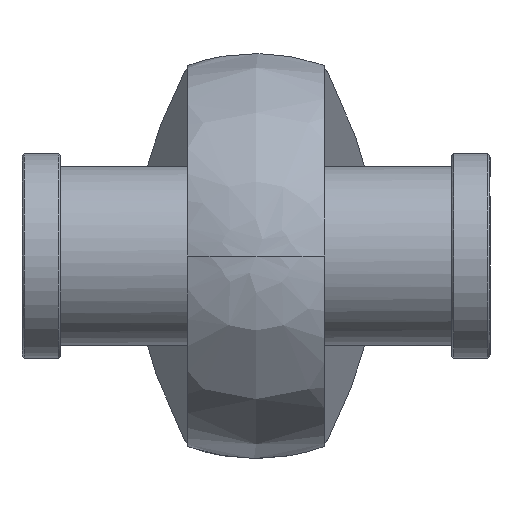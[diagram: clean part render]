
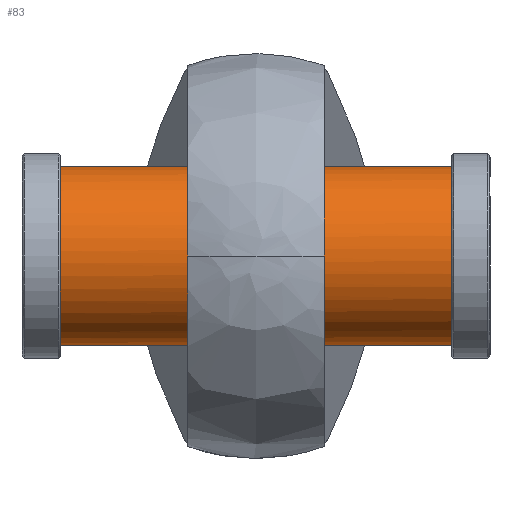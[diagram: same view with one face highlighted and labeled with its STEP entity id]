
A CAD part, left-side view. The second image highlights one B-rep face of the part: STEP entity #83.
In plain terms, the highlighted cylindrical face has radius 21 mm (diameter 42 mm), a full revolution.
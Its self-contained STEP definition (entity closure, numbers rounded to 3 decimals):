
#83=ADVANCED_FACE('',(#157),#1214,.T.);
#157=FACE_OUTER_BOUND('',#238,.T.);
#238=EDGE_LOOP('',(#506,#507,#508,#509));
#506=ORIENTED_EDGE('',*,*,#774,.T.);
#507=ORIENTED_EDGE('',*,*,#776,.T.);
#508=ORIENTED_EDGE('',*,*,#775,.T.);
#509=ORIENTED_EDGE('',*,*,#776,.F.);
#774=EDGE_CURVE('',#1128,#1128,#983,.T.);
#775=EDGE_CURVE('',#1129,#1129,#984,.T.);
#776=EDGE_CURVE('',#1128,#1129,#897,.T.);
#897=B_SPLINE_CURVE_WITH_KNOTS('',1,(#2248,#2249),.UNSPECIFIED.,.F.,.F.,
(2,2),(9.3,101.1),.UNSPECIFIED.);
#983=(
BOUNDED_CURVE()
B_SPLINE_CURVE(2,(#2230,#2231,#2232,#2233,#2234,#2235,#2236,#2237,#2238),
 .UNSPECIFIED.,.T.,.F.)
B_SPLINE_CURVE_WITH_KNOTS((3,2,2,2,3),(0.,32.987,65.973,
98.96,131.947),.UNSPECIFIED.)
CURVE()
GEOMETRIC_REPRESENTATION_ITEM()
RATIONAL_B_SPLINE_CURVE((1.,0.707,1.,0.707,1.,0.707,
1.,0.707,1.))
REPRESENTATION_ITEM('')
);
#984=(
BOUNDED_CURVE()
B_SPLINE_CURVE(2,(#2239,#2240,#2241,#2242,#2243,#2244,#2245,#2246,#2247),
 .UNSPECIFIED.,.T.,.F.)
B_SPLINE_CURVE_WITH_KNOTS((3,2,2,2,3),(0.,32.987,65.973,
98.96,131.947),.UNSPECIFIED.)
CURVE()
GEOMETRIC_REPRESENTATION_ITEM()
RATIONAL_B_SPLINE_CURVE((1.,0.707,1.,0.707,1.,0.707,
1.,0.707,1.))
REPRESENTATION_ITEM('')
);
#1128=VERTEX_POINT('',#2182);
#1129=VERTEX_POINT('',#2183);
#1214=CYLINDRICAL_SURFACE('',#1366,21.);
#1366=AXIS2_PLACEMENT_3D('',#2172,#1412,$);
#1412=DIRECTION('',(0.,-1.,0.));
#2172=CARTESIAN_POINT('',(0.,0.,0.));
#2182=CARTESIAN_POINT('',(21.,45.9,0.));
#2183=CARTESIAN_POINT('',(21.,-45.9,0.));
#2230=CARTESIAN_POINT('',(21.,45.9,0.));
#2231=CARTESIAN_POINT('',(21.,45.9,21.));
#2232=CARTESIAN_POINT('',(0.,45.9,21.));
#2233=CARTESIAN_POINT('',(-21.,45.9,21.));
#2234=CARTESIAN_POINT('',(-21.,45.9,0.));
#2235=CARTESIAN_POINT('',(-21.,45.9,-21.));
#2236=CARTESIAN_POINT('',(0.,45.9,-21.));
#2237=CARTESIAN_POINT('',(21.,45.9,-21.));
#2238=CARTESIAN_POINT('',(21.,45.9,0.));
#2239=CARTESIAN_POINT('',(21.,-45.9,0.));
#2240=CARTESIAN_POINT('',(21.,-45.9,-21.));
#2241=CARTESIAN_POINT('',(0.,-45.9,-21.));
#2242=CARTESIAN_POINT('',(-21.,-45.9,-21.));
#2243=CARTESIAN_POINT('',(-21.,-45.9,0.));
#2244=CARTESIAN_POINT('',(-21.,-45.9,21.));
#2245=CARTESIAN_POINT('',(0.,-45.9,21.));
#2246=CARTESIAN_POINT('',(21.,-45.9,21.));
#2247=CARTESIAN_POINT('',(21.,-45.9,0.));
#2248=CARTESIAN_POINT('',(21.,45.9,0.));
#2249=CARTESIAN_POINT('',(21.,-45.9,0.));
